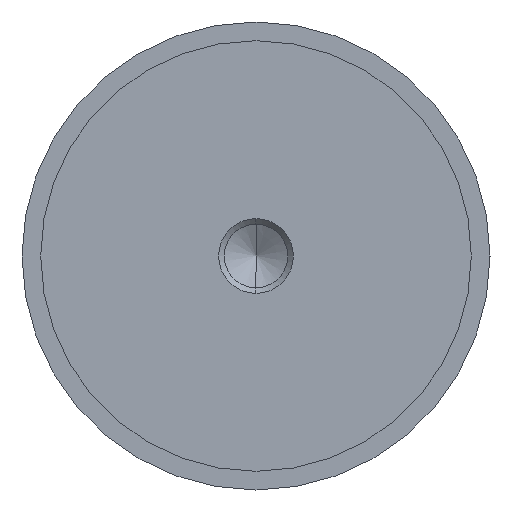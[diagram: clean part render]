
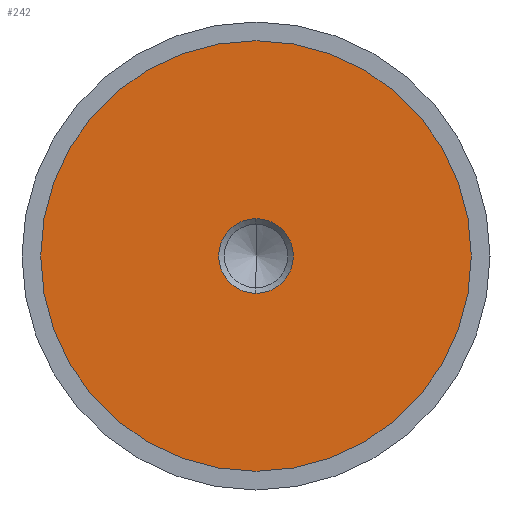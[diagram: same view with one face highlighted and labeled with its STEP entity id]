
A CAD part, left-side view. The second image highlights one B-rep face of the part: STEP entity #242.
In plain terms, the highlighted planar face has unit normal (-1, 0, 0).
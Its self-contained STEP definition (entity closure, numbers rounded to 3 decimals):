
#40 = CARTESIAN_POINT ( 'NONE',  ( -22.49, 0., -5.99 ) ) ;
#72 = CARTESIAN_POINT ( 'NONE',  ( -22.49, 0., 0. ) ) ;
#86 = VERTEX_POINT ( 'NONE', #347 ) ;
#116 = CARTESIAN_POINT ( 'NONE',  ( -22.49, 0., 0. ) ) ;
#130 = VERTEX_POINT ( 'NONE', #351 ) ;
#131 = EDGE_CURVE ( 'NONE', #376, #130, #314, .T. ) ;
#181 = CARTESIAN_POINT ( 'NONE',  ( -22.49, 0., -34.5 ) ) ;
#199 = AXIS2_PLACEMENT_3D ( 'NONE', #116, #364, #266 ) ;
#227 = DIRECTION ( 'NONE',  ( 0., 0., -1. ) ) ;
#233 = PLANE ( 'NONE',  #299 ) ;
#241 = FACE_BOUND ( 'NONE', #300, .T. ) ;
#242 = ADVANCED_FACE ( 'NONE', ( #241, #784 ), #233, .F. ) ;
#255 = DIRECTION ( 'NONE',  ( 0., 0., 1. ) ) ;
#266 = DIRECTION ( 'NONE',  ( 0., 0., 1. ) ) ;
#283 = ORIENTED_EDGE ( 'NONE', *, *, #724, .T. ) ;
#296 = ORIENTED_EDGE ( 'NONE', *, *, #313, .T. ) ;
#299 = AXIS2_PLACEMENT_3D ( 'NONE', #719, #589, #484 ) ;
#300 = EDGE_LOOP ( 'NONE', ( #669, #458 ) ) ;
#304 = DIRECTION ( 'NONE',  ( 1., 0., 0. ) ) ;
#313 = EDGE_CURVE ( 'NONE', #86, #710, #373, .T. ) ;
#314 = CIRCLE ( 'NONE', #372, 5.99 ) ;
#347 = CARTESIAN_POINT ( 'NONE',  ( -22.49, 0., 34.5 ) ) ;
#351 = CARTESIAN_POINT ( 'NONE',  ( -22.49, 0., 5.99 ) ) ;
#364 = DIRECTION ( 'NONE',  ( -1., 0., 0. ) ) ;
#372 = AXIS2_PLACEMENT_3D ( 'NONE', #600, #304, #227 ) ;
#373 = CIRCLE ( 'NONE', #759, 34.5 ) ;
#376 = VERTEX_POINT ( 'NONE', #40 ) ;
#385 = AXIS2_PLACEMENT_3D ( 'NONE', #72, #555, #742 ) ;
#431 = CARTESIAN_POINT ( 'NONE',  ( -22.49, 0., 0. ) ) ;
#458 = ORIENTED_EDGE ( 'NONE', *, *, #131, .T. ) ;
#484 = DIRECTION ( 'NONE',  ( 0., 0., -1. ) ) ;
#555 = DIRECTION ( 'NONE',  ( 1., 0., 0. ) ) ;
#588 = CIRCLE ( 'NONE', #199, 34.5 ) ;
#589 = DIRECTION ( 'NONE',  ( 1., 0., 0. ) ) ;
#600 = CARTESIAN_POINT ( 'NONE',  ( -22.49, 0., 0. ) ) ;
#650 = CIRCLE ( 'NONE', #385, 5.99 ) ;
#661 = EDGE_CURVE ( 'NONE', #130, #376, #650, .T. ) ;
#669 = ORIENTED_EDGE ( 'NONE', *, *, #661, .T. ) ;
#674 = DIRECTION ( 'NONE',  ( -1., 0., 0. ) ) ;
#710 = VERTEX_POINT ( 'NONE', #181 ) ;
#719 = CARTESIAN_POINT ( 'NONE',  ( -22.49, 34.5, 0. ) ) ;
#720 = EDGE_LOOP ( 'NONE', ( #296, #283 ) ) ;
#724 = EDGE_CURVE ( 'NONE', #710, #86, #588, .T. ) ;
#742 = DIRECTION ( 'NONE',  ( 0., 0., -1. ) ) ;
#759 = AXIS2_PLACEMENT_3D ( 'NONE', #431, #674, #255 ) ;
#784 = FACE_OUTER_BOUND ( 'NONE', #720, .T. ) ;
